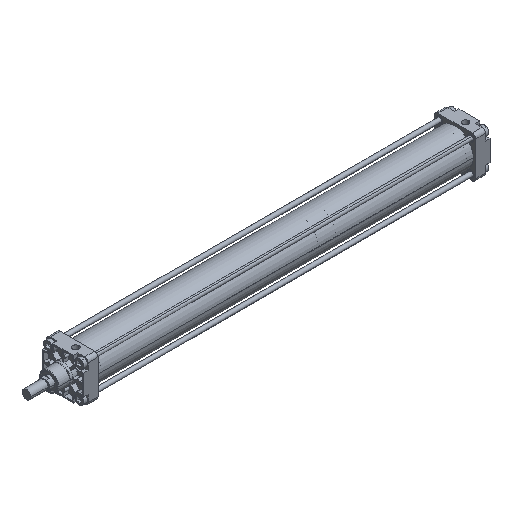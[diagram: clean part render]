
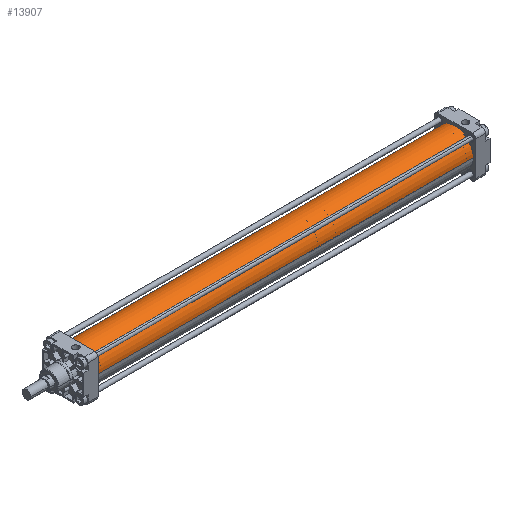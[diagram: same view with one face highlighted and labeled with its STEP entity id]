
A CAD part, isometric view. The second image highlights one B-rep face of the part: STEP entity #13907.
In plain terms, the highlighted cylindrical face has radius 42 mm (diameter 84 mm), a partial arc.
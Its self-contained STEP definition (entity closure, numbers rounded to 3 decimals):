
#13150=CARTESIAN_POINT('Vertex',(869.,-42.,0.)) ;
#13152=CARTESIAN_POINT('Vertex',(869.,42.,0.)) ;
#13155=CARTESIAN_POINT('Axis2P3D Location',(869.,0.,0.)) ;
#13865=CARTESIAN_POINT('Axis2P3D Location',(434.5,0.,0.)) ;
#13870=CARTESIAN_POINT('Line Origine',(434.5,-42.,0.)) ;
#13874=CARTESIAN_POINT('Vertex',(0.,-42.,0.)) ;
#13881=CARTESIAN_POINT('Vertex',(0.,42.,0.)) ;
#13884=CARTESIAN_POINT('Line Origine',(434.5,42.,0.)) ;
#13896=CARTESIAN_POINT('Axis2P3D Location',(0.,0.,0.)) ;
#13156=DIRECTION('Axis2P3D Direction',(1.,0.,0.)) ;
#13866=DIRECTION('Axis2P3D Direction',(1.,0.,0.)) ;
#13867=DIRECTION('Axis2P3D XDirection',(0.,1.,0.)) ;
#13871=DIRECTION('Vector Direction',(1.,0.,0.)) ;
#13885=DIRECTION('Vector Direction',(1.,0.,0.)) ;
#13897=DIRECTION('Axis2P3D Direction',(1.,0.,0.)) ;
#13157=AXIS2_PLACEMENT_3D('Circle Axis2P3D',#13155,#13156,$) ;
#13868=AXIS2_PLACEMENT_3D('Cylinder Axis2P3D',#13865,#13866,#13867) ;
#13898=AXIS2_PLACEMENT_3D('Circle Axis2P3D',#13896,#13897,$) ;
#13902=ORIENTED_EDGE('',*,*,#13888,.F.) ;
#13903=ORIENTED_EDGE('',*,*,#13900,.T.) ;
#13904=ORIENTED_EDGE('',*,*,#13876,.T.) ;
#13905=ORIENTED_EDGE('',*,*,#13159,.F.) ;
#13872=VECTOR('Line Direction',#13871,1.) ;
#13886=VECTOR('Line Direction',#13885,1.) ;
#13907=ADVANCED_FACE('PartBody',(#13906),#13869,.T.) ;
#13158=CIRCLE('generated circle',#13157,42.) ;
#13899=CIRCLE('generated circle',#13898,42.) ;
#13869=CYLINDRICAL_SURFACE('generated cylinder',#13868,42.) ;
#13159=EDGE_CURVE('',#13153,#13151,#13158,.T.) ;
#13876=EDGE_CURVE('',#13875,#13151,#13873,.T.) ;
#13888=EDGE_CURVE('',#13882,#13153,#13887,.T.) ;
#13900=EDGE_CURVE('',#13882,#13875,#13899,.T.) ;
#13901=EDGE_LOOP('',(#13902,#13903,#13904,#13905)) ;
#13906=FACE_OUTER_BOUND('',#13901,.T.) ;
#13873=LINE('Line',#13870,#13872) ;
#13887=LINE('Line',#13884,#13886) ;
#13151=VERTEX_POINT('',#13150) ;
#13153=VERTEX_POINT('',#13152) ;
#13875=VERTEX_POINT('',#13874) ;
#13882=VERTEX_POINT('',#13881) ;
